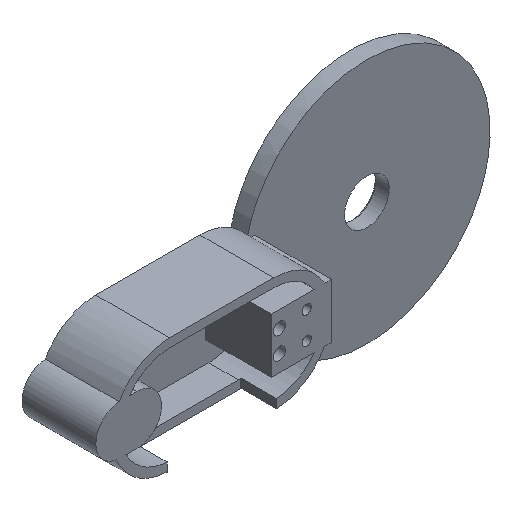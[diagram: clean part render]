
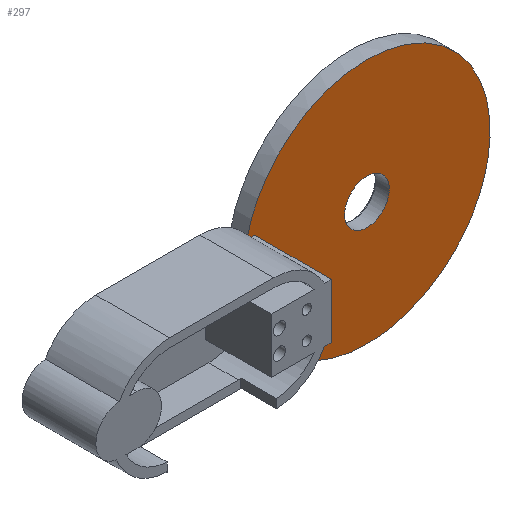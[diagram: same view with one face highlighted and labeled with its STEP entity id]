
A CAD part, isometric view. The second image highlights one B-rep face of the part: STEP entity #297.
In plain terms, the highlighted planar face has unit normal (0, -1, 0).
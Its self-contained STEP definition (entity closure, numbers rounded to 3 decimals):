
#219=DIRECTION('',(1.0,0.,0.0));
#220=DIRECTION('',(0.,-1.0,0.0));
#221=CARTESIAN_POINT('',(176.125,68.,268.024));
#222=AXIS2_PLACEMENT_3D('',#221,#220,#219);
#223=PLANE('',#222);
#224=CARTESIAN_POINT('',(228.15,68.,315.));
#225=CARTESIAN_POINT('',(228.15,68.,312.283));
#226=CARTESIAN_POINT('',(224.075,68.,306.85));
#227=CARTESIAN_POINT('',(215.925,68.,306.85));
#228=CARTESIAN_POINT('',(211.85,68.,312.283));
#229=CARTESIAN_POINT('',(211.85,68.,315.0));
#230=(BOUNDED_CURVE()B_SPLINE_CURVE(2,(#229,#228,#227,#226,#225,#224),.UNSPECIFIED.,.U.,.U.)B_SPLINE_CURVE_WITH_KNOTS((3,1,1,1,3),(0.0,0.25,0.5,0.75,1.0),.UNSPECIFIED.)CURVE()GEOMETRIC_REPRESENTATION_ITEM()RATIONAL_B_SPLINE_CURVE((1.0,0.75,0.5,0.5,0.75,1.0))REPRESENTATION_ITEM(''));
#231=CARTESIAN_POINT('',(228.15,68.,315.));
#232=VERTEX_POINT('',#231);
#233=VERTEX_POINT('',#229);
#234=EDGE_CURVE('',#233,#232,#230,.T.);
#235=ORIENTED_EDGE('',*,*,#234,.F.);
#236=CARTESIAN_POINT('',(211.85,68.,317.717));
#237=CARTESIAN_POINT('',(215.925,68.,323.15));
#238=CARTESIAN_POINT('',(224.075,68.,323.15));
#239=CARTESIAN_POINT('',(228.15,68.,317.717));
#240=(BOUNDED_CURVE()B_SPLINE_CURVE(2,(#231,#239,#238,#237,#236,#229),.UNSPECIFIED.,.U.,.U.)B_SPLINE_CURVE_WITH_KNOTS((3,1,1,1,3),(0.0,0.25,0.5,0.75,1.0),.UNSPECIFIED.)CURVE()GEOMETRIC_REPRESENTATION_ITEM()RATIONAL_B_SPLINE_CURVE((1.0,0.75,0.5,0.5,0.75,1.0))REPRESENTATION_ITEM(''));
#241=EDGE_CURVE('',#232,#233,#240,.T.);
#242=ORIENTED_EDGE('',*,*,#241,.F.);
#243=EDGE_LOOP('',(#242,#235));
#244=FACE_BOUND('',#243,.T.);
#245=CARTESIAN_POINT('',(183.196,68.,340.893));
#246=CARTESIAN_POINT('',(181.939,68.,339.106));
#247=CARTESIAN_POINT('',(179.778,68.,335.297));
#248=CARTESIAN_POINT('',(177.993,68.,331.286));
#249=CARTESIAN_POINT('',(176.611,68.,327.13));
#250=CARTESIAN_POINT('',(176.125,68.,325.));
#251=(BOUNDED_CURVE()B_SPLINE_CURVE(2,(#250,#249,#248,#247,#246,#245),.UNSPECIFIED.,.U.,.U.)B_SPLINE_CURVE_WITH_KNOTS((3,1,1,1,3),(0.0,0.25,0.5,0.75,1.0),.UNSPECIFIED.)CURVE()GEOMETRIC_REPRESENTATION_ITEM()RATIONAL_B_SPLINE_CURVE((1.0,0.995,0.991,0.991,0.995,1.0))REPRESENTATION_ITEM(''));
#252=CARTESIAN_POINT('',(183.196,68.,340.893));
#253=VERTEX_POINT('',#252);
#254=VERTEX_POINT('',#250);
#255=EDGE_CURVE('',#254,#253,#251,.T.);
#256=ORIENTED_EDGE('',*,*,#255,.F.);
#257=CARTESIAN_POINT('',(256.804,68.,289.107));
#258=CARTESIAN_POINT('',(265.435,68.,301.375));
#259=CARTESIAN_POINT('',(264.295,68.,338.857));
#260=CARTESIAN_POINT('',(227.491,68.,364.751));
#261=CARTESIAN_POINT('',(191.827,68.,353.161));
#262=(BOUNDED_CURVE()B_SPLINE_CURVE(2,(#252,#261,#260,#259,#258,#257),.UNSPECIFIED.,.U.,.U.)B_SPLINE_CURVE_WITH_KNOTS((3,1,1,1,3),(0.0,0.25,0.5,0.75,1.0),.UNSPECIFIED.)CURVE()GEOMETRIC_REPRESENTATION_ITEM()RATIONAL_B_SPLINE_CURVE((1.0,0.75,0.5,0.5,0.75,1.0))REPRESENTATION_ITEM(''));
#263=CARTESIAN_POINT('',(256.804,68.,289.107));
#264=VERTEX_POINT('',#263);
#265=EDGE_CURVE('',#253,#264,#262,.T.);
#266=ORIENTED_EDGE('',*,*,#265,.F.);
#267=CARTESIAN_POINT('',(176.125,68.,305.));
#268=CARTESIAN_POINT('',(178.807,68.,293.232));
#269=CARTESIAN_POINT('',(196.962,68.,273.674));
#270=CARTESIAN_POINT('',(225.643,68.,268.024));
#271=CARTESIAN_POINT('',(249.859,68.,279.235));
#272=(BOUNDED_CURVE()B_SPLINE_CURVE(2,(#263,#271,#270,#269,#268,#267),.UNSPECIFIED.,.U.,.U.)B_SPLINE_CURVE_WITH_KNOTS((3,1,1,1,3),(0.0,0.25,0.5,0.75,1.0),.UNSPECIFIED.)CURVE()GEOMETRIC_REPRESENTATION_ITEM()RATIONAL_B_SPLINE_CURVE((1.0,0.852,0.703,0.703,0.852,1.0))REPRESENTATION_ITEM(''));
#273=CARTESIAN_POINT('',(176.125,68.,305.));
#274=VERTEX_POINT('',#273);
#275=EDGE_CURVE('',#264,#274,#272,.T.);
#276=ORIENTED_EDGE('',*,*,#275,.F.);
#277=DIRECTION('',(1.0,0.0,0.));
#278=VECTOR('',#277,2.875);
#279=LINE('',#273,#278);
#280=CARTESIAN_POINT('',(179.0,68.,305.));
#281=VERTEX_POINT('',#280);
#282=EDGE_CURVE('',#274,#281,#279,.T.);
#283=ORIENTED_EDGE('',*,*,#282,.F.);
#284=DIRECTION('',(0.0,0.,1.0));
#285=VECTOR('',#284,20.0);
#286=LINE('',#280,#285);
#287=CARTESIAN_POINT('',(179.0,68.,325.));
#288=VERTEX_POINT('',#287);
#289=EDGE_CURVE('',#281,#288,#286,.T.);
#290=ORIENTED_EDGE('',*,*,#289,.F.);
#291=VECTOR('',#277,2.875);
#292=LINE('',#250,#291);
#293=EDGE_CURVE('',#254,#288,#292,.T.);
#294=ORIENTED_EDGE('',*,*,#293,.T.);
#295=EDGE_LOOP('',(#294,#290,#283,#276,#266,#256));
#296=FACE_BOUND('',#295,.T.);
#297=ADVANCED_FACE('',(#296,#244),#223,.T.);
